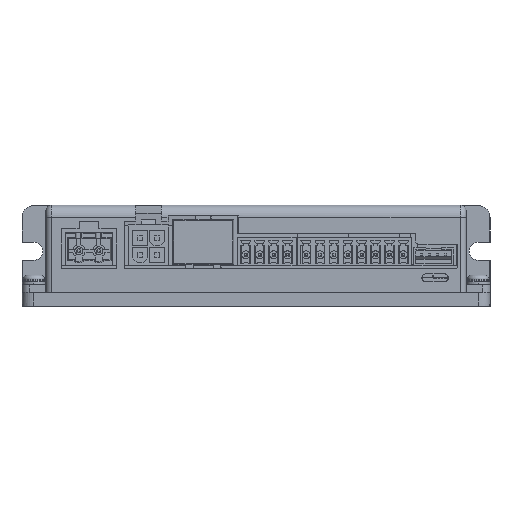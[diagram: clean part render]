
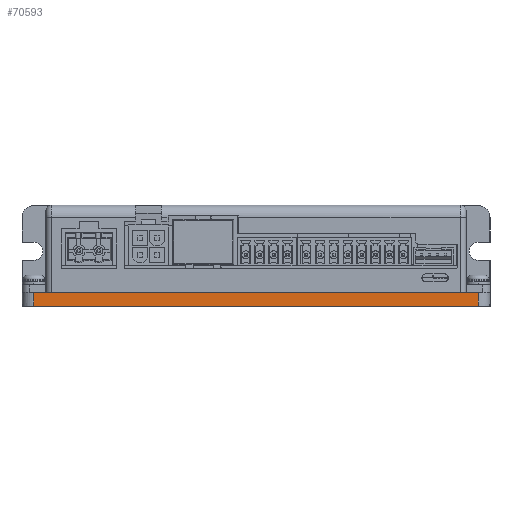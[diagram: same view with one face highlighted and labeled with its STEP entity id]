
A CAD part, top view. The second image highlights one B-rep face of the part: STEP entity #70593.
In plain terms, the highlighted planar face has unit normal (0, 0, 1).
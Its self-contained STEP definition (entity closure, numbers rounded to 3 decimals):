
#1526 = VECTOR ( 'NONE', #119936, 1000. ) ;
#2592 = EDGE_CURVE ( 'NONE', #116944, #113365, #99187, .T. ) ;
#18502 = VECTOR ( 'NONE', #91903, 1000. ) ;
#19099 = DIRECTION ( 'NONE',  ( 1., 0., 0. ) ) ;
#35657 = VECTOR ( 'NONE', #19099, 1000. ) ;
#42507 = PLANE ( 'NONE',  #79578 ) ;
#45536 = EDGE_CURVE ( 'NONE', #116944, #101381, #55361, .T. ) ;
#47970 = VECTOR ( 'NONE', #106627, 1000. ) ;
#51972 = CARTESIAN_POINT ( 'NONE',  ( 56., -4.7, 2.5 ) ) ;
#53187 = DIRECTION ( 'NONE',  ( 0., 0., 1. ) ) ;
#54508 = ORIENTED_EDGE ( 'NONE', *, *, #2592, .T. ) ;
#55361 = LINE ( 'NONE', #109857, #1526 ) ;
#61718 = ORIENTED_EDGE ( 'NONE', *, *, #128932, .F. ) ;
#66401 = CARTESIAN_POINT ( 'NONE',  ( 56., -6.45, 2.5 ) ) ;
#69565 = CARTESIAN_POINT ( 'NONE',  ( 0.006, -4.7, 2.5 ) ) ;
#70593 = ADVANCED_FACE ( 'NONE', ( #121225 ), #42507, .T. ) ;
#73778 = ORIENTED_EDGE ( 'NONE', *, *, #100172, .T. ) ;
#79578 = AXIS2_PLACEMENT_3D ( 'NONE', #113706, #53187, #123807 ) ;
#81755 = CARTESIAN_POINT ( 'NONE',  ( 0., -8.2, 2.5 ) ) ;
#89344 = CARTESIAN_POINT ( 'NONE',  ( -56., -8.2, 2.5 ) ) ;
#91903 = DIRECTION ( 'NONE',  ( 1., 0., 0. ) ) ;
#99187 = LINE ( 'NONE', #81755, #18502 ) ;
#100172 = EDGE_CURVE ( 'NONE', #113365, #131108, #101762, .T. ) ;
#101381 = VERTEX_POINT ( 'NONE', #120356 ) ;
#101762 = LINE ( 'NONE', #66401, #47970 ) ;
#106573 = CARTESIAN_POINT ( 'NONE',  ( 56., -8.2, 2.5 ) ) ;
#106627 = DIRECTION ( 'NONE',  ( 0., 1., 0. ) ) ;
#109857 = CARTESIAN_POINT ( 'NONE',  ( -56., -6.468, 2.5 ) ) ;
#113143 = LINE ( 'NONE', #69565, #35657 ) ;
#113365 = VERTEX_POINT ( 'NONE', #106573 ) ;
#113706 = CARTESIAN_POINT ( 'NONE',  ( -56., -4.7, 2.5 ) ) ;
#116944 = VERTEX_POINT ( 'NONE', #89344 ) ;
#119936 = DIRECTION ( 'NONE',  ( 0., 1., 0. ) ) ;
#120356 = CARTESIAN_POINT ( 'NONE',  ( -56., -4.7, 2.5 ) ) ;
#121225 = FACE_OUTER_BOUND ( 'NONE', #124811, .T. ) ;
#123807 = DIRECTION ( 'NONE',  ( 0., -1., 0. ) ) ;
#124811 = EDGE_LOOP ( 'NONE', ( #129133, #54508, #73778, #61718 ) ) ;
#128932 = EDGE_CURVE ( 'NONE', #101381, #131108, #113143, .T. ) ;
#129133 = ORIENTED_EDGE ( 'NONE', *, *, #45536, .F. ) ;
#131108 = VERTEX_POINT ( 'NONE', #51972 ) ;
